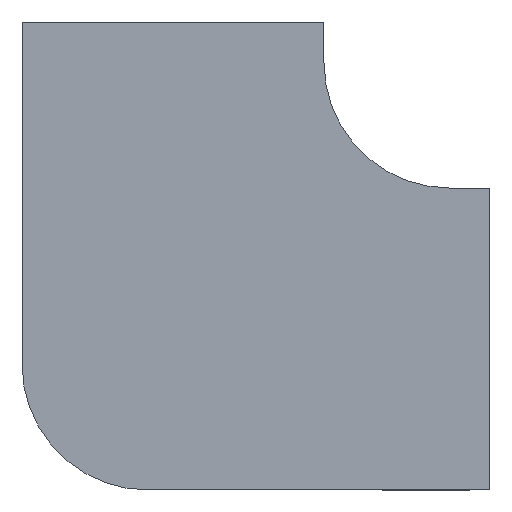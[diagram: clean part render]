
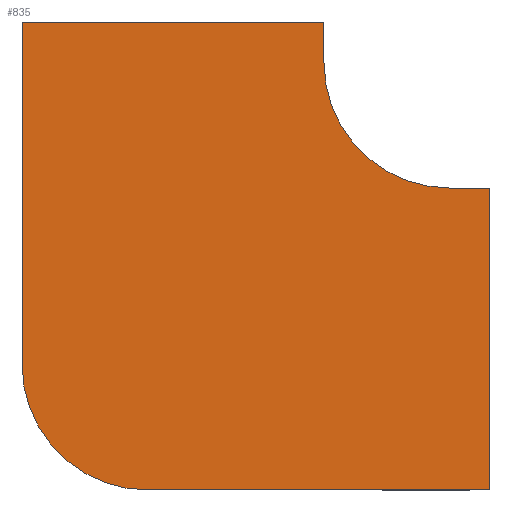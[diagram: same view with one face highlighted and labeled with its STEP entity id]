
A CAD part, front view. The second image highlights one B-rep face of the part: STEP entity #835.
In plain terms, the highlighted planar face has unit normal (0, -1, 0).
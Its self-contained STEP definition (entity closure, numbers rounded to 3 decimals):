
#16 = CARTESIAN_POINT ( 'NONE',  ( 40., 0., -125. ) ) ;
#37 = CARTESIAN_POINT ( 'NONE',  ( 40., 0., -125. ) ) ;
#44 = DIRECTION ( 'NONE',  ( 0., 0., -1. ) ) ;
#53 = AXIS2_PLACEMENT_3D ( 'NONE', #1349, #1221, #44 ) ;
#78 = CARTESIAN_POINT ( 'NONE',  ( 0., 0., -125. ) ) ;
#108 = DIRECTION ( 'NONE',  ( 0., 0., 1. ) ) ;
#135 = VERTEX_POINT ( 'NONE', #1017 ) ;
#151 = DIRECTION ( 'NONE',  ( 0., 1., 0. ) ) ;
#167 = CARTESIAN_POINT ( 'NONE',  ( -300., 0., -425. ) ) ;
#177 = CARTESIAN_POINT ( 'NONE',  ( -425., 0., 40. ) ) ;
#198 = PLANE ( 'NONE',  #53 ) ;
#201 = VECTOR ( 'NONE', #233, 1000. ) ;
#233 = DIRECTION ( 'NONE',  ( 1., 0., 0. ) ) ;
#272 = ORIENTED_EDGE ( 'NONE', *, *, #1140, .F. ) ;
#281 = DIRECTION ( 'NONE',  ( 0., 0., -1. ) ) ;
#282 = VERTEX_POINT ( 'NONE', #941 ) ;
#284 = CARTESIAN_POINT ( 'NONE',  ( -425., 0., -300. ) ) ;
#311 = VECTOR ( 'NONE', #1360, 1000. ) ;
#333 = CARTESIAN_POINT ( 'NONE',  ( 40., 0., -425. ) ) ;
#376 = VERTEX_POINT ( 'NONE', #333 ) ;
#385 = CARTESIAN_POINT ( 'NONE',  ( -125., 0., 40. ) ) ;
#387 = ORIENTED_EDGE ( 'NONE', *, *, #1247, .F. ) ;
#395 = AXIS2_PLACEMENT_3D ( 'NONE', #968, #1231, #1603 ) ;
#443 = CARTESIAN_POINT ( 'NONE',  ( 40., 0., -425. ) ) ;
#452 = LINE ( 'NONE', #443, #311 ) ;
#508 = CIRCLE ( 'NONE', #561, 125. ) ;
#540 = CARTESIAN_POINT ( 'NONE',  ( -300., 0., -300. ) ) ;
#561 = AXIS2_PLACEMENT_3D ( 'NONE', #540, #151, #791 ) ;
#631 = EDGE_CURVE ( 'NONE', #779, #679, #508, .T. ) ;
#679 = VERTEX_POINT ( 'NONE', #284 ) ;
#747 = LINE ( 'NONE', #78, #201 ) ;
#757 = CARTESIAN_POINT ( 'NONE',  ( -425., 0., -300. ) ) ;
#779 = VERTEX_POINT ( 'NONE', #167 ) ;
#791 = DIRECTION ( 'NONE',  ( 0., 0., 1. ) ) ;
#795 = DIRECTION ( 'NONE',  ( 0., 0., -1. ) ) ;
#817 = FACE_OUTER_BOUND ( 'NONE', #1396, .T. ) ;
#835 = ADVANCED_FACE ( 'NONE', ( #817 ), #198, .T. ) ;
#864 = LINE ( 'NONE', #757, #1173 ) ;
#941 = CARTESIAN_POINT ( 'NONE',  ( -125., 0., 40. ) ) ;
#968 = CARTESIAN_POINT ( 'NONE',  ( 0., 0., 0. ) ) ;
#1017 = CARTESIAN_POINT ( 'NONE',  ( 0., 0., -125. ) ) ;
#1018 = ORIENTED_EDGE ( 'NONE', *, *, #1308, .F. ) ;
#1031 = EDGE_CURVE ( 'NONE', #1559, #376, #1193, .T. ) ;
#1048 = EDGE_CURVE ( 'NONE', #282, #1598, #1455, .T. ) ;
#1062 = VECTOR ( 'NONE', #281, 1000. ) ;
#1067 = ORIENTED_EDGE ( 'NONE', *, *, #631, .F. ) ;
#1083 = CARTESIAN_POINT ( 'NONE',  ( -125., 0., 0. ) ) ;
#1088 = VECTOR ( 'NONE', #1289, 1000. ) ;
#1140 = EDGE_CURVE ( 'NONE', #376, #779, #452, .T. ) ;
#1173 = VECTOR ( 'NONE', #108, 1000. ) ;
#1193 = LINE ( 'NONE', #16, #1062 ) ;
#1211 = VERTEX_POINT ( 'NONE', #177 ) ;
#1221 = DIRECTION ( 'NONE',  ( 0., -1., 0. ) ) ;
#1231 = DIRECTION ( 'NONE',  ( 0., -1., 0. ) ) ;
#1247 = EDGE_CURVE ( 'NONE', #135, #1559, #747, .T. ) ;
#1258 = CARTESIAN_POINT ( 'NONE',  ( -425., 0., 40. ) ) ;
#1289 = DIRECTION ( 'NONE',  ( 1., 0., 0. ) ) ;
#1292 = EDGE_CURVE ( 'NONE', #1211, #282, #1530, .T. ) ;
#1308 = EDGE_CURVE ( 'NONE', #679, #1211, #864, .T. ) ;
#1321 = ORIENTED_EDGE ( 'NONE', *, *, #1292, .F. ) ;
#1326 = ORIENTED_EDGE ( 'NONE', *, *, #1031, .F. ) ;
#1349 = CARTESIAN_POINT ( 'NONE',  ( 0., 0., 0. ) ) ;
#1360 = DIRECTION ( 'NONE',  ( -1., 0., 0. ) ) ;
#1396 = EDGE_LOOP ( 'NONE', ( #1321, #1018, #1067, #272, #1326, #387, #1464, #1577 ) ) ;
#1455 = LINE ( 'NONE', #385, #1649 ) ;
#1464 = ORIENTED_EDGE ( 'NONE', *, *, #1547, .F. ) ;
#1530 = LINE ( 'NONE', #1258, #1088 ) ;
#1543 = CIRCLE ( 'NONE', #395, 125. ) ;
#1547 = EDGE_CURVE ( 'NONE', #1598, #135, #1543, .T. ) ;
#1559 = VERTEX_POINT ( 'NONE', #37 ) ;
#1577 = ORIENTED_EDGE ( 'NONE', *, *, #1048, .F. ) ;
#1598 = VERTEX_POINT ( 'NONE', #1083 ) ;
#1603 = DIRECTION ( 'NONE',  ( 0., 0., -1. ) ) ;
#1649 = VECTOR ( 'NONE', #795, 1000. ) ;
